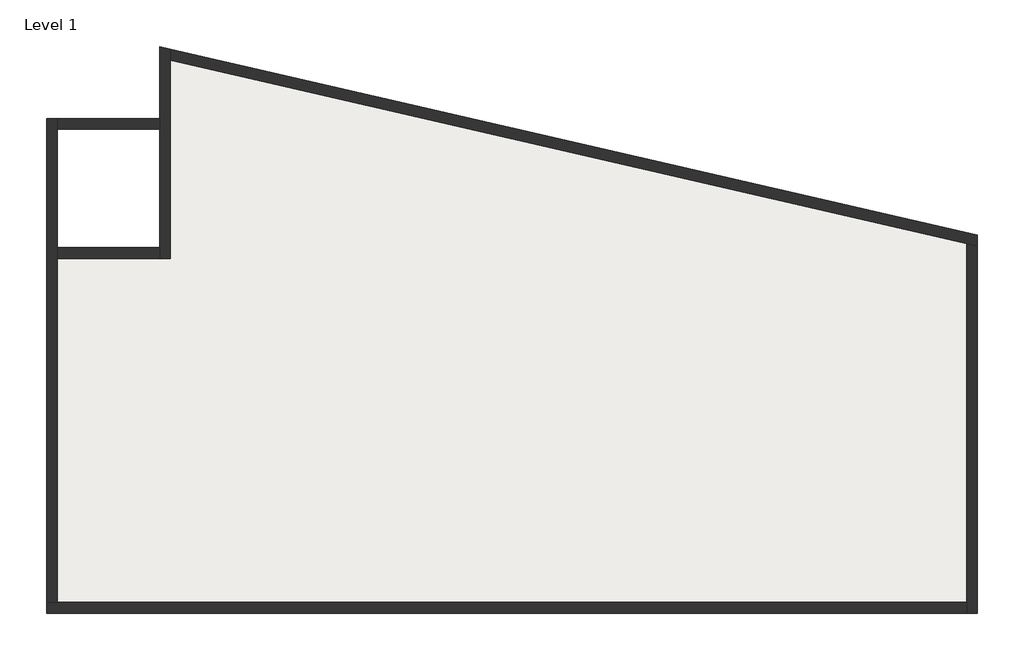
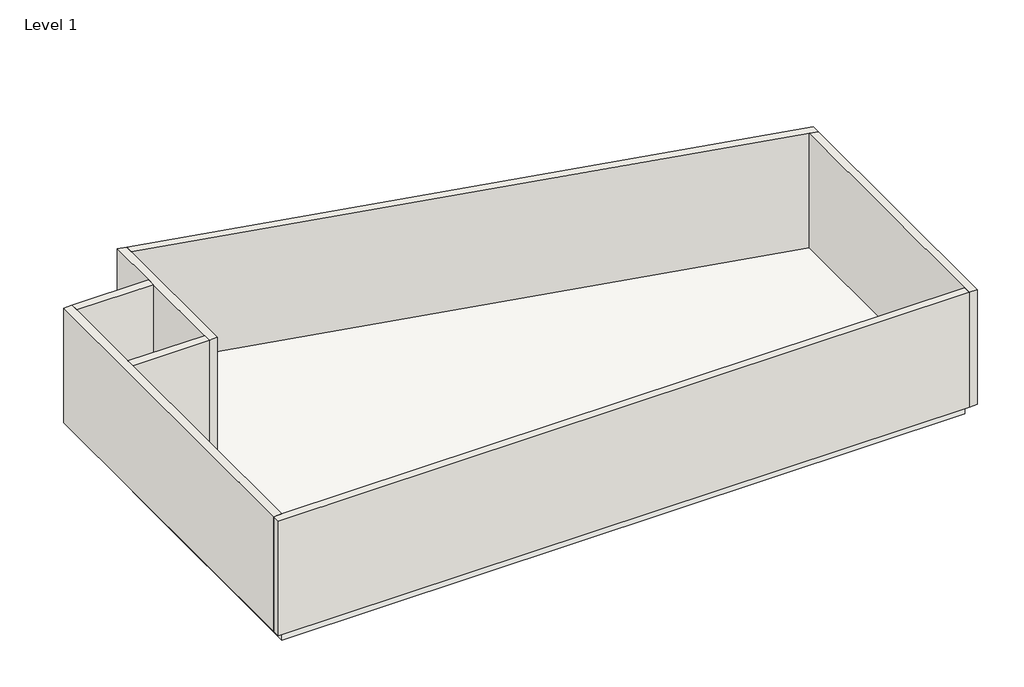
# One storey: 7 walls, 1 slab.
"""IFC4 building model written with IfcOpenShell, lengths in millimetres."""

from ifc_helpers import new_model, si_unit, frame, origin, origin_with_axes, place, context, project, spatial, polyline, outline, extrude, faceted_brep, element, save

model = new_model("IFC4")

# Units and contexts
model_context = context("Model", 3, world=origin())
ifc_project = project(units=[si_unit("LENGTHUNIT", "METRE", prefix="MILLI")], contexts=[model_context])

# Site, building, storey
site = spatial("IfcSite", under=ifc_project)
building = spatial("IfcBuilding", under=site)
storey = spatial("IfcBuildingStorey", under=building, Name="Level 1", Elevation=0.0)

# Slab
placement = place(None, origin())
element("IfcSlab", 1, ObjectType="Generic - 12\"", at=placement, inside=storey, context=model_context, shape_type="SweptSolid", body=[
    extrude(outline(polyline([(-10884.7799699, 8273.3620776), (-8751.1799699, 8273.3620776), (-8751.1799699, 12022.0557132), (6285.6200301, 8550.5368969), (6285.6200301, 1770.9620776), (-10884.7799699, 1770.9620776), (-10884.7799699, 8273.3620776)])), frame((0.0, 0.0, -304.8), z_axis=(0.0, 0.0, 1.0), x_axis=(1.0, 0.0, 0.0)), (0.0, 0.0, 1.0), 304.8),
])

# Walls
element("IfcWall", 2, ObjectType="Generic - 8\"", at=placement, inside=storey, context=model_context, shape_type="Brep", body=[
    faceted_brep([(-8751.1799699, 8273.3620776, 0.0), (-8751.1799699, 12022.0557132, 0.0), (-8751.1799699, 12230.6007079, 0.0), (-8751.1799699, 12230.6007079, 3048.0), (-8751.1799699, 12022.0557132, 3048.0), (-8751.1799699, 8273.3620776, 3048.0), (-8954.3799699, 8273.3620776, 0.0), (-8954.3799699, 8273.3620776, 3048.0), (-8954.3799699, 8476.5620776, 3048.0), (-8954.3799699, 10711.7620776, 3048.0), (-8954.3799699, 10914.9620776, 3048.0), (-8954.3799699, 12277.5131243, 3048.0), (-8954.3799699, 12277.5131243, 0.0), (-8954.3799699, 10914.9620776, 0.0), (-8954.3799699, 10711.7620776, 0.0), (-8954.3799699, 8476.5620776, 0.0)], [[[0, 1, 2, 3, 4, 5]], [[6, 7, 8, 9, 10, 11, 12, 13, 14, 15]], [[2, 1, 0, 6, 15, 14, 13, 12]], [[5, 4, 3, 11, 10, 9, 8, 7]], [[3, 2, 12, 11]], [[0, 5, 7, 6]]]),
])
element("IfcWall", 3, ObjectType="Generic - 8\"", at=placement, inside=storey, context=model_context, shape_type="Brep", body=[
    faceted_brep([(-8751.1799699, 12022.0557132, 0.0), (6285.6200301, 8550.5368969, 0.0), (6488.8200301, 8503.6244805, 0.0), (6488.8200301, 8503.6244805, 3048.0), (6285.6200301, 8550.5368969, 3048.0), (-8751.1799699, 12022.0557132, 3048.0), (-8751.1799699, 12230.6007079, 0.0), (-8751.1799699, 12230.6007079, 3048.0), (6488.8200301, 8712.1694752, 3048.0), (6488.8200301, 8712.1694752, 0.0)], [[[0, 1, 2, 3, 4, 5]], [[6, 7, 8, 9]], [[2, 1, 0, 6, 9]], [[5, 4, 3, 8, 7]], [[0, 5, 7, 6]], [[3, 2, 9, 8]]]),
])
element("IfcWall", 4, ObjectType="Generic - 8\"", at=placement, inside=storey, context=model_context, shape_type="Brep", body=[
    faceted_brep([(6285.6200301, 8550.5368969, 0.0), (6285.6200301, 1770.9620776, 0.0), (6285.6200301, 1567.7620776, 0.0), (6285.6200301, 1567.7620776, 3048.0), (6285.6200301, 1770.9620776, 3048.0), (6285.6200301, 8550.5368969, 3048.0), (6488.8200301, 8503.6244805, 0.0), (6488.8200301, 8503.6244805, 3048.0), (6488.8200301, 1567.7620776, 3048.0), (6488.8200301, 1567.7620776, 0.0)], [[[0, 1, 2, 3, 4, 5]], [[6, 7, 8, 9]], [[2, 1, 0, 6, 9]], [[5, 4, 3, 8, 7]], [[0, 5, 7, 6]], [[3, 2, 9, 8]]]),
])
element("IfcWall", 5, ObjectType="Generic - 8\"", at=placement, inside=storey, context=model_context, shape_type="Brep", body=[
    faceted_brep([(6285.6200301, 1770.9620776, 0.0), (-10884.7799699, 1770.9620776, 0.0), (-11087.9799699, 1770.9620776, 0.0), (-11087.9799699, 1770.9620776, 3048.0), (-10884.7799699, 1770.9620776, 3048.0), (6285.6200301, 1770.9620776, 3048.0), (6285.6200301, 1567.7620776, 0.0), (6285.6200301, 1567.7620776, 3048.0), (-11087.9799699, 1567.7620776, 3048.0), (-11087.9799699, 1567.7620776, 0.0)], [[[0, 1, 2, 3, 4, 5]], [[6, 7, 8, 9]], [[2, 1, 0, 6, 9]], [[5, 4, 3, 8, 7]], [[0, 5, 7, 6]], [[3, 2, 9, 8]]]),
])
element("IfcWall", 6, ObjectType="Generic - 8\"", at=placement, inside=storey, context=model_context, shape_type="Brep", body=[
    faceted_brep([(-10884.7799699, 1770.9620776, 0.0), (-10884.7799699, 8273.3620776, 0.0), (-10884.7799699, 8476.5620776, 0.0), (-10884.7799699, 10711.7620776, 0.0), (-10884.7799699, 10914.9620776, 0.0), (-10884.7799699, 10914.9620776, 3048.0), (-10884.7799699, 10711.7620776, 3048.0), (-10884.7799699, 8476.5620776, 3048.0), (-10884.7799699, 8273.3620776, 3048.0), (-10884.7799699, 1770.9620776, 3048.0), (-11087.9799699, 1770.9620776, 0.0), (-11087.9799699, 1770.9620776, 3048.0), (-11087.9799699, 10914.9620776, 3048.0), (-11087.9799699, 10914.9620776, 0.0)], [[[0, 1, 2, 3, 4, 5, 6, 7, 8, 9]], [[10, 11, 12, 13]], [[4, 3, 2, 1, 0, 10, 13]], [[9, 8, 7, 6, 5, 12, 11]], [[0, 9, 11, 10]], [[5, 4, 13, 12]]]),
])
element("IfcWall", 7, ObjectType="Generic - 8\"", at=placement, inside=storey, context=model_context, shape_type="SweptSolid", body=[
    extrude(outline(polyline([(-8954.3799699, 10711.7620776), (-10884.7799699, 10711.7620776), (-10884.7799699, 10914.9620776), (-8954.3799699, 10914.9620776), (-8954.3799699, 10711.7620776)])), origin_with_axes(), (0.0, 0.0, 1.0), 3048.0),
])
element("IfcWall", 8, ObjectType="Generic - 8\"", at=placement, inside=storey, context=model_context, shape_type="SweptSolid", body=[
    extrude(outline(polyline([(-10884.7799699, 8476.5620776), (-8954.3799699, 8476.5620776), (-8954.3799699, 8273.3620776), (-10884.7799699, 8273.3620776), (-10884.7799699, 8476.5620776)])), origin_with_axes(), (0.0, 0.0, 1.0), 3048.0),
])

save(model, "model.ifc")
